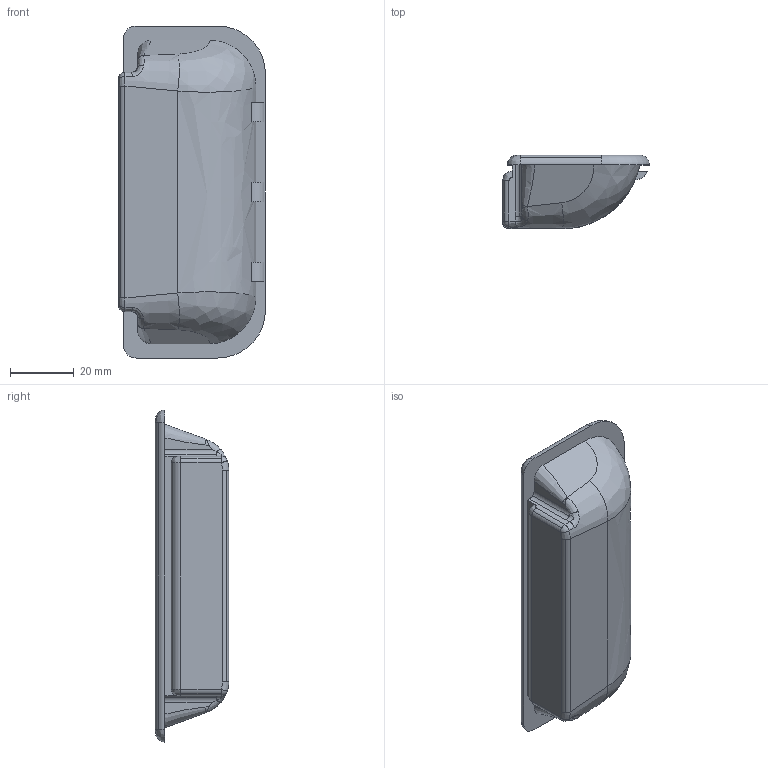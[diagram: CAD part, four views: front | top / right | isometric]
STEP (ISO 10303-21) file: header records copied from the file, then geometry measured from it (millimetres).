
FILE_DESCRIPTION (( 'STEP AP203' ), '1' );
FILE_NAME ('SDH3595P.STEP', '2024-02-19T12:37:26', ( '' ), ( '' ), 'SwSTEP 2.0', 'SolidWorks 2022', '' );
FILE_SCHEMA (( 'CONFIG_CONTROL_DESIGN' ));
Length unit declared in the file: millimetre
Products named in the file (1): SDH3595P
Bounding box: 46 x 23 x 104 mm (x, y, z)
Volume: 10940.9 mm3; surface area: 18002.3 mm2
Topology: 1 solids, 1 shells, 124 faces, 310 edges, 192 vertices
Faces by surface type: cylinder 41, plane 39, bspline 36, torus 6, sphere 2
Entity records: 10613 total; most frequent: CARTESIAN_POINT 7845, ORIENTED_EDGE 620, DIRECTION 470, EDGE_CURVE 310, VERTEX_POINT 192, AXIS2_PLACEMENT_3D 183, EDGE_LOOP 128, FACE_OUTER_BOUND 124
